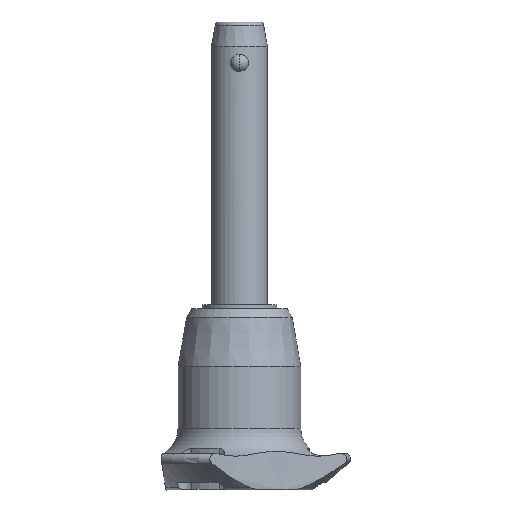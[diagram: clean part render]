
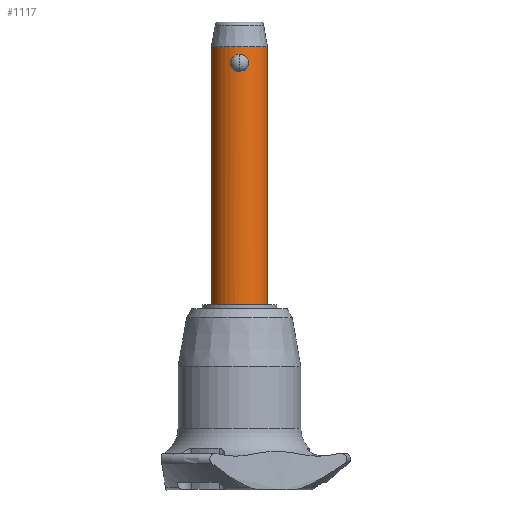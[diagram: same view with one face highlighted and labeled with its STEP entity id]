
A CAD part, front view. The second image highlights one B-rep face of the part: STEP entity #1117.
In plain terms, the highlighted cylindrical face has radius 6 mm (diameter 12 mm), a partial arc.
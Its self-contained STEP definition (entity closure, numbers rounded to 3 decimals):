
#4 = CARTESIAN_POINT ( 'NONE',  ( 0.966, -5.923, 0.232 ) ) ;
#102 = FACE_BOUND ( 'NONE', #1482, .T. ) ;
#156 = VERTEX_POINT ( 'NONE', #1434 ) ;
#212 = CARTESIAN_POINT ( 'NONE',  ( 1.942, -5.677, 2.103 ) ) ;
#238 = CARTESIAN_POINT ( 'NONE',  ( 0., 0., 5.3 ) ) ;
#249 = AXIS2_PLACEMENT_3D ( 'NONE', #550, #1428, #1834 ) ;
#393 = CARTESIAN_POINT ( 'NONE',  ( -1.942, -5.677, 1.604 ) ) ;
#406 = CARTESIAN_POINT ( 'NONE',  ( -0.967, -5.923, 0.233 ) ) ;
#424 = ORIENTED_EDGE ( 'NONE', *, *, #1404, .F. ) ;
#435 = CARTESIAN_POINT ( 'NONE',  ( -0.25, -6., 0. ) ) ;
#470 = CARTESIAN_POINT ( 'NONE',  ( -6., 0., 5.3 ) ) ;
#478 = ORIENTED_EDGE ( 'NONE', *, *, #2149, .F. ) ;
#529 = VERTEX_POINT ( 'NONE', #1659 ) ;
#536 = ORIENTED_EDGE ( 'NONE', *, *, #1039, .F. ) ;
#550 = CARTESIAN_POINT ( 'NONE',  ( 0., 0., -50. ) ) ;
#626 = CARTESIAN_POINT ( 'NONE',  ( 1.749, -5.74, 1.007 ) ) ;
#634 = CARTESIAN_POINT ( 'NONE',  ( -1.278, -5.863, 3.271 ) ) ;
#639 = EDGE_CURVE ( 'NONE', #156, #1930, #1958, .T. ) ;
#646 = CARTESIAN_POINT ( 'NONE',  ( -0.853, -5.94, 0.177 ) ) ;
#650 = CARTESIAN_POINT ( 'NONE',  ( 1.277, -5.863, 0.437 ) ) ;
#681 = CARTESIAN_POINT ( 'NONE',  ( 0., -6., 3.708 ) ) ;
#698 = DIRECTION ( 'NONE',  ( 0., 0., -1. ) ) ;
#711 = DIRECTION ( 'NONE',  ( 1., 0., 0. ) ) ;
#714 = DIRECTION ( 'NONE',  ( 0., 0., 1. ) ) ;
#798 = CARTESIAN_POINT ( 'NONE',  ( 6., 0., -50. ) ) ;
#825 = CARTESIAN_POINT ( 'NONE',  ( -0.854, -5.94, 3.53 ) ) ;
#838 = CARTESIAN_POINT ( 'NONE',  ( -1.75, -5.74, 2.7 ) ) ;
#840 = EDGE_LOOP ( 'NONE', ( #536, #478, #2628, #2303 ) ) ;
#842 = CARTESIAN_POINT ( 'NONE',  ( 1.901, -5.692, 1.35 ) ) ;
#844 = VECTOR ( 'NONE', #1675, 1000. ) ;
#866 = CARTESIAN_POINT ( 'NONE',  ( -0.252, -5.996, 3.697 ) ) ;
#886 = CARTESIAN_POINT ( 'NONE',  ( 1.178, -5.884, 0.362 ) ) ;
#899 = CARTESIAN_POINT ( 'NONE',  ( 1.89, -5.695, 2.349 ) ) ;
#1039 = EDGE_CURVE ( 'NONE', #529, #1930, #1751, .T. ) ;
#1054 = CARTESIAN_POINT ( 'NONE',  ( -1.541, -5.799, 3.011 ) ) ;
#1072 = CARTESIAN_POINT ( 'NONE',  ( 1.543, -5.799, 0.699 ) ) ;
#1083 = CARTESIAN_POINT ( 'NONE',  ( -1.955, -5.673, 2.107 ) ) ;
#1095 = CARTESIAN_POINT ( 'NONE',  ( -1.9, -5.692, 2.359 ) ) ;
#1111 = CARTESIAN_POINT ( 'NONE',  ( 0., -6., 0. ) ) ;
#1117 = ADVANCED_FACE ( 'NONE', ( #2423, #102 ), #1144, .T. ) ;
#1144 = CYLINDRICAL_SURFACE ( 'NONE', #2137, 6. ) ;
#1160 = B_SPLINE_CURVE_WITH_KNOTS ( 'NONE', 3,
 ( #1111, #1983, #1324, #1509, #4, #886, #650, #2226, #1072, #2189, #626, #842, #1735, #1774, #212, #899, #1495, #1970, #2215, #1995, #1521, #1718, #2418, #1757, #1294, #2656, #2672, #681 ),
 .UNSPECIFIED., .F., .F.,
 ( 4, 2, 2, 2, 2, 2, 2, 2, 2, 2, 2, 2, 2, 4 ),
 ( 0.006, 0.007, 0.007, 0.008, 0.008, 0.008, 0.009, 0.009, 0.01, 0.011, 0.011, 0.011, 0.012, 0.012 ),
 .UNSPECIFIED. ) ;
#1236 = EDGE_CURVE ( 'NONE', #2528, #156, #2545, .T. ) ;
#1265 = CARTESIAN_POINT ( 'NONE',  ( -1.89, -5.695, 1.358 ) ) ;
#1290 = CARTESIAN_POINT ( 'NONE',  ( -0.62, -5.969, 3.619 ) ) ;
#1294 = CARTESIAN_POINT ( 'NONE',  ( 0.498, -5.981, 3.652 ) ) ;
#1324 = CARTESIAN_POINT ( 'NONE',  ( 0.503, -5.983, 0.045 ) ) ;
#1333 = CARTESIAN_POINT ( 'NONE',  ( 6., 0., -50. ) ) ;
#1342 = DIRECTION ( 'NONE',  ( 1., 0., 0. ) ) ;
#1404 = EDGE_CURVE ( 'NONE', #2131, #2404, #1160, .T. ) ;
#1428 = DIRECTION ( 'NONE',  ( 0., 0., -1. ) ) ;
#1434 = CARTESIAN_POINT ( 'NONE',  ( 6., 0., 5.3 ) ) ;
#1475 = CARTESIAN_POINT ( 'NONE',  ( -0.966, -5.923, 3.476 ) ) ;
#1482 = EDGE_LOOP ( 'NONE', ( #1519, #424 ) ) ;
#1495 = CARTESIAN_POINT ( 'NONE',  ( 1.851, -5.708, 2.47 ) ) ;
#1505 = B_SPLINE_CURVE_WITH_KNOTS ( 'NONE', 3,
 ( #2852, #2622, #866, #1741, #1290, #825, #1475, #2364, #634, #2395, #1054, #1935, #838, #1095, #1083, #1966, #393, #1265, #2635, #1712, #2606, #2382, #1978, #406, #646, #2411, #435, #2667 ),
 .UNSPECIFIED., .F., .F.,
 ( 4, 2, 2, 2, 2, 2, 2, 2, 2, 2, 2, 2, 2, 4 ),
 ( 0., 0., 0.001, 0.001, 0.002, 0.002, 0.002, 0.003, 0.003, 0.004, 0.005, 0.005, 0.005, 0.006 ),
 .UNSPECIFIED. ) ;
#1509 = CARTESIAN_POINT ( 'NONE',  ( 0.853, -5.94, 0.177 ) ) ;
#1519 = ORIENTED_EDGE ( 'NONE', *, *, #1537, .F. ) ;
#1521 = CARTESIAN_POINT ( 'NONE',  ( 1.178, -5.884, 3.346 ) ) ;
#1530 = CIRCLE ( 'NONE', #249, 6. ) ;
#1537 = EDGE_CURVE ( 'NONE', #2404, #2131, #1505, .T. ) ;
#1659 = CARTESIAN_POINT ( 'NONE',  ( -6., 0., -50. ) ) ;
#1675 = DIRECTION ( 'NONE',  ( 0., 0., 1. ) ) ;
#1712 = CARTESIAN_POINT ( 'NONE',  ( -1.7, -5.755, 0.895 ) ) ;
#1718 = CARTESIAN_POINT ( 'NONE',  ( 0.966, -5.923, 3.476 ) ) ;
#1721 = AXIS2_PLACEMENT_3D ( 'NONE', #238, #698, #711 ) ;
#1735 = CARTESIAN_POINT ( 'NONE',  ( 1.955, -5.673, 1.6 ) ) ;
#1741 = CARTESIAN_POINT ( 'NONE',  ( -0.498, -5.981, 3.652 ) ) ;
#1751 = LINE ( 'NONE', #1944, #2548 ) ;
#1757 = CARTESIAN_POINT ( 'NONE',  ( 0.62, -5.969, 3.619 ) ) ;
#1774 = CARTESIAN_POINT ( 'NONE',  ( 1.955, -5.673, 1.979 ) ) ;
#1834 = DIRECTION ( 'NONE',  ( 1., 0., 0. ) ) ;
#1866 = CARTESIAN_POINT ( 'NONE',  ( 0., -6., 0. ) ) ;
#1930 = VERTEX_POINT ( 'NONE', #470 ) ;
#1935 = CARTESIAN_POINT ( 'NONE',  ( -1.687, -5.759, 2.809 ) ) ;
#1944 = CARTESIAN_POINT ( 'NONE',  ( -6., 0., -50. ) ) ;
#1958 = CIRCLE ( 'NONE', #1721, 6. ) ;
#1966 = CARTESIAN_POINT ( 'NONE',  ( -1.955, -5.673, 1.731 ) ) ;
#1970 = CARTESIAN_POINT ( 'NONE',  ( 1.7, -5.755, 2.812 ) ) ;
#1978 = CARTESIAN_POINT ( 'NONE',  ( -1.179, -5.884, 0.363 ) ) ;
#1983 = CARTESIAN_POINT ( 'NONE',  ( 0.25, -6., 0. ) ) ;
#1995 = CARTESIAN_POINT ( 'NONE',  ( 1.279, -5.863, 3.27 ) ) ;
#2027 = CARTESIAN_POINT ( 'NONE',  ( 0., 0., -50. ) ) ;
#2131 = VERTEX_POINT ( 'NONE', #1866 ) ;
#2137 = AXIS2_PLACEMENT_3D ( 'NONE', #2027, #714, #1342 ) ;
#2149 = EDGE_CURVE ( 'NONE', #2528, #529, #1530, .T. ) ;
#2189 = CARTESIAN_POINT ( 'NONE',  ( 1.687, -5.758, 0.899 ) ) ;
#2215 = CARTESIAN_POINT ( 'NONE',  ( 1.551, -5.799, 3.018 ) ) ;
#2226 = CARTESIAN_POINT ( 'NONE',  ( 1.459, -5.821, 0.604 ) ) ;
#2238 = CARTESIAN_POINT ( 'NONE',  ( 0., -6., 3.708 ) ) ;
#2303 = ORIENTED_EDGE ( 'NONE', *, *, #639, .T. ) ;
#2364 = CARTESIAN_POINT ( 'NONE',  ( -1.177, -5.884, 3.347 ) ) ;
#2382 = CARTESIAN_POINT ( 'NONE',  ( -1.278, -5.863, 0.437 ) ) ;
#2395 = CARTESIAN_POINT ( 'NONE',  ( -1.46, -5.821, 3.103 ) ) ;
#2404 = VERTEX_POINT ( 'NONE', #2238 ) ;
#2411 = CARTESIAN_POINT ( 'NONE',  ( -0.504, -5.983, 0.045 ) ) ;
#2418 = CARTESIAN_POINT ( 'NONE',  ( 0.855, -5.94, 3.53 ) ) ;
#2423 = FACE_OUTER_BOUND ( 'NONE', #840, .T. ) ;
#2528 = VERTEX_POINT ( 'NONE', #1333 ) ;
#2545 = LINE ( 'NONE', #798, #844 ) ;
#2548 = VECTOR ( 'NONE', #2833, 1000. ) ;
#2606 = CARTESIAN_POINT ( 'NONE',  ( -1.551, -5.799, 0.69 ) ) ;
#2622 = CARTESIAN_POINT ( 'NONE',  ( -0.127, -6., 3.708 ) ) ;
#2628 = ORIENTED_EDGE ( 'NONE', *, *, #1236, .T. ) ;
#2635 = CARTESIAN_POINT ( 'NONE',  ( -1.852, -5.707, 1.239 ) ) ;
#2656 = CARTESIAN_POINT ( 'NONE',  ( 0.252, -5.996, 3.697 ) ) ;
#2667 = CARTESIAN_POINT ( 'NONE',  ( 0., -6., 0. ) ) ;
#2672 = CARTESIAN_POINT ( 'NONE',  ( 0.127, -6., 3.708 ) ) ;
#2833 = DIRECTION ( 'NONE',  ( 0., 0., 1. ) ) ;
#2852 = CARTESIAN_POINT ( 'NONE',  ( 0., -6., 3.708 ) ) ;
